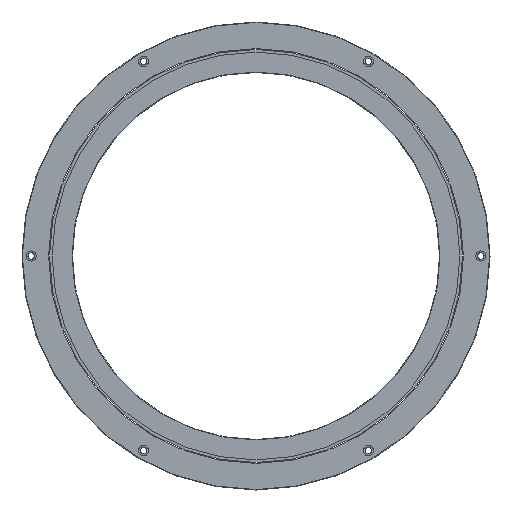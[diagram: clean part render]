
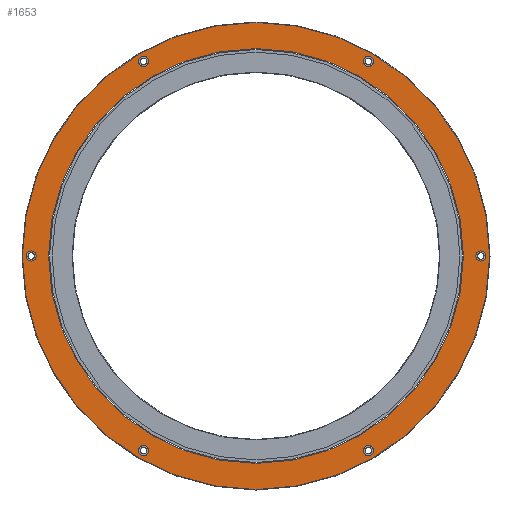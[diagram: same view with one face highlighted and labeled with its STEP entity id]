
A CAD part, front view. The second image highlights one B-rep face of the part: STEP entity #1653.
In plain terms, the highlighted planar face has unit normal (0, -1, 0).
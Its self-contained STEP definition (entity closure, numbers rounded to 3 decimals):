
#371=CARTESIAN_POINT('',(0.,0.,0.));
#372=DIRECTION('',(0.,-1.,0.));
#373=DIRECTION('',(-1.,0.,0.));
#374=AXIS2_PLACEMENT_3D('',#371,#372,#373);
#376=CARTESIAN_POINT('',(0.,0.,0.));
#377=DIRECTION('',(0.,1.,0.));
#378=DIRECTION('',(-1.,0.,0.));
#379=AXIS2_PLACEMENT_3D('',#376,#377,#378);
#381=CARTESIAN_POINT('',(-245.,0.,0.));
#382=DIRECTION('',(0.,1.,0.));
#383=DIRECTION('',(1.,0.,0.));
#384=AXIS2_PLACEMENT_3D('',#381,#382,#383);
#386=CARTESIAN_POINT('',(-245.,0.,0.));
#387=DIRECTION('',(0.,1.,0.));
#388=DIRECTION('',(-1.,0.,0.));
#389=AXIS2_PLACEMENT_3D('',#386,#387,#388);
#391=CARTESIAN_POINT('',(-122.5,0.,212.176));
#392=DIRECTION('',(0.,1.,0.));
#393=DIRECTION('',(0.5,0.,-0.866));
#394=AXIS2_PLACEMENT_3D('',#391,#392,#393);
#396=CARTESIAN_POINT('',(-122.5,0.,212.176));
#397=DIRECTION('',(0.,1.,0.));
#398=DIRECTION('',(-0.5,0.,0.866));
#399=AXIS2_PLACEMENT_3D('',#396,#397,#398);
#401=CARTESIAN_POINT('',(122.5,0.,212.176));
#402=DIRECTION('',(0.,1.,0.));
#403=DIRECTION('',(-0.5,0.,-0.866));
#404=AXIS2_PLACEMENT_3D('',#401,#402,#403);
#406=CARTESIAN_POINT('',(122.5,0.,212.176));
#407=DIRECTION('',(0.,1.,0.));
#408=DIRECTION('',(0.5,0.,0.866));
#409=AXIS2_PLACEMENT_3D('',#406,#407,#408);
#411=CARTESIAN_POINT('',(245.,0.,0.));
#412=DIRECTION('',(0.,1.,0.));
#413=DIRECTION('',(-1.,0.,0.));
#414=AXIS2_PLACEMENT_3D('',#411,#412,#413);
#416=CARTESIAN_POINT('',(245.,0.,0.));
#417=DIRECTION('',(0.,1.,0.));
#418=DIRECTION('',(1.,0.,0.));
#419=AXIS2_PLACEMENT_3D('',#416,#417,#418);
#421=CARTESIAN_POINT('',(122.5,0.,-212.176));
#422=DIRECTION('',(0.,1.,0.));
#423=DIRECTION('',(-0.5,0.,0.866));
#424=AXIS2_PLACEMENT_3D('',#421,#422,#423);
#426=CARTESIAN_POINT('',(122.5,0.,-212.176));
#427=DIRECTION('',(0.,1.,0.));
#428=DIRECTION('',(0.5,0.,-0.866));
#429=AXIS2_PLACEMENT_3D('',#426,#427,#428);
#431=CARTESIAN_POINT('',(-122.5,0.,-212.176));
#432=DIRECTION('',(0.,1.,0.));
#433=DIRECTION('',(0.5,0.,0.866));
#434=AXIS2_PLACEMENT_3D('',#431,#432,#433);
#436=CARTESIAN_POINT('',(-122.5,0.,-212.176));
#437=DIRECTION('',(0.,1.,0.));
#438=DIRECTION('',(-0.5,0.,-0.866));
#439=AXIS2_PLACEMENT_3D('',#436,#437,#438);
#441=CARTESIAN_POINT('',(0.,0.,0.));
#442=DIRECTION('',(0.,1.,0.));
#443=DIRECTION('',(-1.,0.,0.));
#444=AXIS2_PLACEMENT_3D('',#441,#442,#443);
#446=CARTESIAN_POINT('',(0.,0.,0.));
#447=DIRECTION('',(0.,1.,0.));
#448=DIRECTION('',(1.,0.,0.));
#449=AXIS2_PLACEMENT_3D('',#446,#447,#448);
#919=CARTESIAN_POINT('',(-239.5,0.,0.));
#920=VERTEX_POINT('',#919);
#921=CARTESIAN_POINT('',(-250.5,0.,0.));
#922=VERTEX_POINT('',#921);
#931=CARTESIAN_POINT('',(-119.75,0.,207.413));
#932=VERTEX_POINT('',#931);
#933=CARTESIAN_POINT('',(-125.25,0.,216.939));
#934=VERTEX_POINT('',#933);
#943=CARTESIAN_POINT('',(119.75,0.,207.413));
#944=VERTEX_POINT('',#943);
#945=CARTESIAN_POINT('',(125.25,0.,216.939));
#946=VERTEX_POINT('',#945);
#955=CARTESIAN_POINT('',(239.5,0.,0.));
#956=VERTEX_POINT('',#955);
#957=CARTESIAN_POINT('',(250.5,0.,0.));
#958=VERTEX_POINT('',#957);
#976=CARTESIAN_POINT('',(-226.,0.,0.));
#978=VERTEX_POINT('',#976);
#980=CARTESIAN_POINT('',(226.,0.,0.));
#982=VERTEX_POINT('',#980);
#995=CARTESIAN_POINT('',(-254.5,0.,0.));
#996=CARTESIAN_POINT('',(254.5,0.,0.));
#997=VERTEX_POINT('',#995);
#998=VERTEX_POINT('',#996);
#1043=CARTESIAN_POINT('',(119.75,0.,-207.413));
#1044=CARTESIAN_POINT('',(125.25,0.,-216.939));
#1045=VERTEX_POINT('',#1043);
#1046=VERTEX_POINT('',#1044);
#1055=CARTESIAN_POINT('',(-119.75,0.,-207.413));
#1056=CARTESIAN_POINT('',(-125.25,0.,-216.939));
#1057=VERTEX_POINT('',#1055);
#1058=VERTEX_POINT('',#1056);
#1604=CARTESIAN_POINT('',(0.,0.,0.));
#1605=DIRECTION('',(0.,1.,0.));
#1606=DIRECTION('',(1.,0.,0.));
#1607=AXIS2_PLACEMENT_3D('',#1604,#1605,#1606);
#1608=PLANE('',#1607);
#1609=ORIENTED_EDGE('',*,*,#1090,.T.);
#1610=ORIENTED_EDGE('',*,*,#1105,.T.);
#1611=EDGE_LOOP('',(#1609,#1610));
#1612=FACE_OUTER_BOUND('',#1611,.F.);
#1614=ORIENTED_EDGE('',*,*,#1613,.F.);
#1616=ORIENTED_EDGE('',*,*,#1615,.F.);
#1617=EDGE_LOOP('',(#1614,#1616));
#1618=FACE_BOUND('',#1617,.F.);
#1620=ORIENTED_EDGE('',*,*,#1619,.F.);
#1622=ORIENTED_EDGE('',*,*,#1621,.F.);
#1623=EDGE_LOOP('',(#1620,#1622));
#1624=FACE_BOUND('',#1623,.F.);
#1626=ORIENTED_EDGE('',*,*,#1625,.F.);
#1628=ORIENTED_EDGE('',*,*,#1627,.F.);
#1629=EDGE_LOOP('',(#1626,#1628));
#1630=FACE_BOUND('',#1629,.F.);
#1632=ORIENTED_EDGE('',*,*,#1631,.F.);
#1634=ORIENTED_EDGE('',*,*,#1633,.F.);
#1635=EDGE_LOOP('',(#1632,#1634));
#1636=FACE_BOUND('',#1635,.F.);
#1638=ORIENTED_EDGE('',*,*,#1637,.F.);
#1640=ORIENTED_EDGE('',*,*,#1639,.F.);
#1641=EDGE_LOOP('',(#1638,#1640));
#1642=FACE_BOUND('',#1641,.F.);
#1644=ORIENTED_EDGE('',*,*,#1643,.F.);
#1646=ORIENTED_EDGE('',*,*,#1645,.F.);
#1647=EDGE_LOOP('',(#1644,#1646));
#1648=FACE_BOUND('',#1647,.F.);
#1649=ORIENTED_EDGE('',*,*,#1599,.T.);
#1650=ORIENTED_EDGE('',*,*,#1583,.F.);
#1651=EDGE_LOOP('',(#1649,#1650));
#1652=FACE_BOUND('',#1651,.F.);
#375=CIRCLE('',#374,226.);
#380=CIRCLE('',#379,226.);
#385=CIRCLE('',#384,5.5);
#390=CIRCLE('',#389,5.5);
#395=CIRCLE('',#394,5.5);
#400=CIRCLE('',#399,5.5);
#405=CIRCLE('',#404,5.5);
#410=CIRCLE('',#409,5.5);
#415=CIRCLE('',#414,5.5);
#420=CIRCLE('',#419,5.5);
#425=CIRCLE('',#424,5.5);
#430=CIRCLE('',#429,5.5);
#435=CIRCLE('',#434,5.5);
#440=CIRCLE('',#439,5.5);
#445=CIRCLE('',#444,254.5);
#450=CIRCLE('',#449,254.5);
#1090=EDGE_CURVE('',#997,#998,#445,.T.);
#1105=EDGE_CURVE('',#998,#997,#450,.T.);
#1583=EDGE_CURVE('',#978,#982,#380,.T.);
#1599=EDGE_CURVE('',#978,#982,#375,.T.);
#1613=EDGE_CURVE('',#920,#922,#385,.T.);
#1615=EDGE_CURVE('',#922,#920,#390,.T.);
#1619=EDGE_CURVE('',#932,#934,#395,.T.);
#1621=EDGE_CURVE('',#934,#932,#400,.T.);
#1625=EDGE_CURVE('',#944,#946,#405,.T.);
#1627=EDGE_CURVE('',#946,#944,#410,.T.);
#1631=EDGE_CURVE('',#956,#958,#415,.T.);
#1633=EDGE_CURVE('',#958,#956,#420,.T.);
#1637=EDGE_CURVE('',#1045,#1046,#425,.T.);
#1639=EDGE_CURVE('',#1046,#1045,#430,.T.);
#1643=EDGE_CURVE('',#1057,#1058,#435,.T.);
#1645=EDGE_CURVE('',#1058,#1057,#440,.T.);
#1653=ADVANCED_FACE('',(#1612,#1618,#1624,#1630,#1636,#1642,#1648,#1652),#1608,
.F.);
